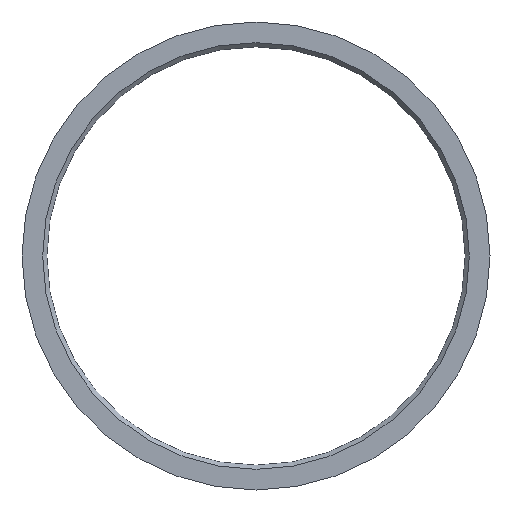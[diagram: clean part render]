
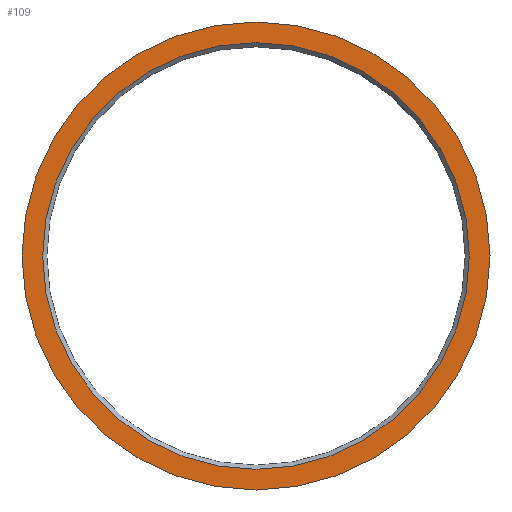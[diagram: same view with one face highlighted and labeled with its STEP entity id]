
A CAD part, front view. The second image highlights one B-rep face of the part: STEP entity #109.
In plain terms, the highlighted planar face has unit normal (0, -1, 0).
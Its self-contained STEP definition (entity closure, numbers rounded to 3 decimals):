
#16=FACE_BOUND('',#34,.T.);
#18=PLANE('',#144);
#25=FACE_OUTER_BOUND('',#33,.T.);
#33=EDGE_LOOP('',(#90));
#34=EDGE_LOOP('',(#91));
#51=CIRCLE('',#143,51.05);
#52=CIRCLE('',#145,56.);
#59=VERTEX_POINT('',#202);
#60=VERTEX_POINT('',#206);
#70=EDGE_CURVE('',#59,#59,#51,.T.);
#71=EDGE_CURVE('',#60,#60,#52,.T.);
#90=ORIENTED_EDGE('',*,*,#71,.F.);
#91=ORIENTED_EDGE('',*,*,#70,.F.);
#109=ADVANCED_FACE('',(#25,#16),#18,.F.);
#143=AXIS2_PLACEMENT_3D('',#204,#171,#172);
#144=AXIS2_PLACEMENT_3D('',#205,#173,#174);
#145=AXIS2_PLACEMENT_3D('',#207,#175,#176);
#171=DIRECTION('center_axis',(0.,-1.,0.));
#172=DIRECTION('ref_axis',(1.,0.,0.));
#173=DIRECTION('center_axis',(0.,1.,0.));
#174=DIRECTION('ref_axis',(0.,0.,1.));
#175=DIRECTION('center_axis',(0.,1.,0.));
#176=DIRECTION('ref_axis',(-1.,0.,0.));
#202=CARTESIAN_POINT('',(-51.05,0.,0.));
#204=CARTESIAN_POINT('Origin',(0.,0.,0.));
#205=CARTESIAN_POINT('Origin',(0.,0.,0.));
#206=CARTESIAN_POINT('',(-56.,0.,0.));
#207=CARTESIAN_POINT('Origin',(0.,0.,0.));
